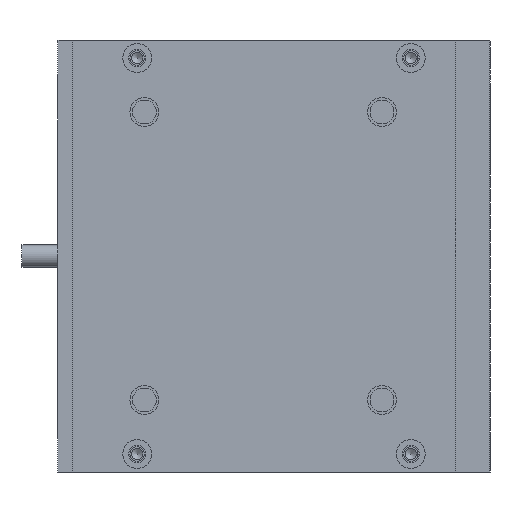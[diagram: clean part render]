
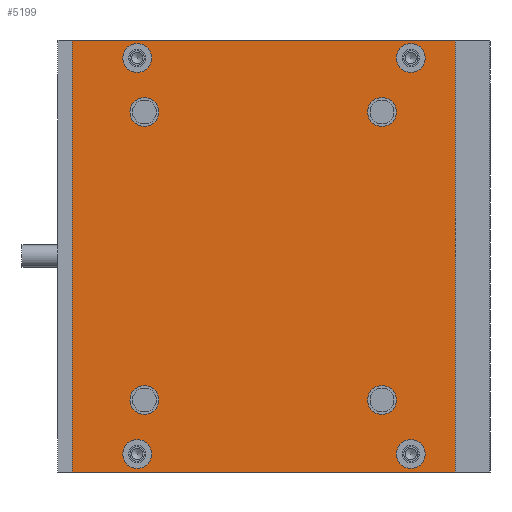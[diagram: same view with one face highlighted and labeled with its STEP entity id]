
A CAD part, left-side view. The second image highlights one B-rep face of the part: STEP entity #5199.
In plain terms, the highlighted planar face has unit normal (-1, 0, 0).
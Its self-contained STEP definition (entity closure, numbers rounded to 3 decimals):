
#177=FACE_BOUND('',#1073,.T.);
#178=FACE_BOUND('',#1074,.T.);
#179=FACE_BOUND('',#1075,.T.);
#180=FACE_BOUND('',#1076,.T.);
#181=FACE_BOUND('',#1077,.T.);
#182=FACE_BOUND('',#1078,.T.);
#183=FACE_BOUND('',#1079,.T.);
#184=FACE_BOUND('',#1080,.T.);
#431=CIRCLE('',#5708,2.);
#432=CIRCLE('',#5709,2.);
#437=CIRCLE('',#5716,2.);
#438=CIRCLE('',#5717,2.);
#443=CIRCLE('',#5724,2.);
#444=CIRCLE('',#5725,2.);
#449=CIRCLE('',#5732,2.);
#450=CIRCLE('',#5733,2.);
#453=CIRCLE('',#5737,2.);
#454=CIRCLE('',#5738,2.);
#461=CIRCLE('',#5747,2.);
#462=CIRCLE('',#5748,2.);
#469=CIRCLE('',#5757,2.);
#470=CIRCLE('',#5758,2.);
#477=CIRCLE('',#5767,2.);
#478=CIRCLE('',#5768,2.);
#744=FACE_OUTER_BOUND('',#1072,.T.);
#1072=EDGE_LOOP('',(#4692,#4693,#4694,#4695));
#1073=EDGE_LOOP('',(#4696,#4697));
#1074=EDGE_LOOP('',(#4698,#4699));
#1075=EDGE_LOOP('',(#4700,#4701));
#1076=EDGE_LOOP('',(#4702,#4703));
#1077=EDGE_LOOP('',(#4704,#4705));
#1078=EDGE_LOOP('',(#4706,#4707));
#1079=EDGE_LOOP('',(#4708,#4709));
#1080=EDGE_LOOP('',(#4710,#4711));
#1225=LINE('',#7706,#1677);
#1323=LINE('',#8157,#1775);
#1552=LINE('',#8975,#2004);
#1553=LINE('',#8977,#2005);
#1677=VECTOR('',#6047,1000.);
#1775=VECTOR('',#6487,1000.);
#2004=VECTOR('',#7330,1000.);
#2005=VECTOR('',#7333,1000.);
#2146=VERTEX_POINT('',#7646);
#2151=VERTEX_POINT('',#7662);
#2294=VERTEX_POINT('',#8120);
#2299=VERTEX_POINT('',#8136);
#2490=VERTEX_POINT('',#8841);
#2491=VERTEX_POINT('',#8843);
#2496=VERTEX_POINT('',#8857);
#2497=VERTEX_POINT('',#8859);
#2502=VERTEX_POINT('',#8873);
#2503=VERTEX_POINT('',#8875);
#2508=VERTEX_POINT('',#8889);
#2509=VERTEX_POINT('',#8891);
#2512=VERTEX_POINT('',#8899);
#2513=VERTEX_POINT('',#8901);
#2520=VERTEX_POINT('',#8919);
#2521=VERTEX_POINT('',#8921);
#2528=VERTEX_POINT('',#8939);
#2529=VERTEX_POINT('',#8941);
#2536=VERTEX_POINT('',#8959);
#2537=VERTEX_POINT('',#8961);
#2715=EDGE_CURVE('',#2151,#2146,#1225,.T.);
#2907=EDGE_CURVE('',#2299,#2294,#1323,.T.);
#3216=EDGE_CURVE('',#2490,#2491,#431,.T.);
#3217=EDGE_CURVE('',#2491,#2490,#432,.T.);
#3224=EDGE_CURVE('',#2496,#2497,#437,.T.);
#3225=EDGE_CURVE('',#2497,#2496,#438,.T.);
#3232=EDGE_CURVE('',#2502,#2503,#443,.T.);
#3233=EDGE_CURVE('',#2503,#2502,#444,.T.);
#3240=EDGE_CURVE('',#2508,#2509,#449,.T.);
#3241=EDGE_CURVE('',#2509,#2508,#450,.T.);
#3245=EDGE_CURVE('',#2512,#2513,#453,.T.);
#3246=EDGE_CURVE('',#2513,#2512,#454,.T.);
#3255=EDGE_CURVE('',#2520,#2521,#461,.T.);
#3256=EDGE_CURVE('',#2521,#2520,#462,.T.);
#3265=EDGE_CURVE('',#2528,#2529,#469,.T.);
#3266=EDGE_CURVE('',#2529,#2528,#470,.T.);
#3275=EDGE_CURVE('',#2536,#2537,#477,.T.);
#3276=EDGE_CURVE('',#2537,#2536,#478,.T.);
#3282=EDGE_CURVE('',#2146,#2299,#1552,.T.);
#3283=EDGE_CURVE('',#2294,#2151,#1553,.T.);
#4692=ORIENTED_EDGE('',*,*,#3282,.T.);
#4693=ORIENTED_EDGE('',*,*,#2907,.T.);
#4694=ORIENTED_EDGE('',*,*,#3283,.T.);
#4695=ORIENTED_EDGE('',*,*,#2715,.T.);
#4696=ORIENTED_EDGE('',*,*,#3217,.F.);
#4697=ORIENTED_EDGE('',*,*,#3216,.F.);
#4698=ORIENTED_EDGE('',*,*,#3225,.F.);
#4699=ORIENTED_EDGE('',*,*,#3224,.F.);
#4700=ORIENTED_EDGE('',*,*,#3233,.F.);
#4701=ORIENTED_EDGE('',*,*,#3232,.F.);
#4702=ORIENTED_EDGE('',*,*,#3241,.F.);
#4703=ORIENTED_EDGE('',*,*,#3240,.F.);
#4704=ORIENTED_EDGE('',*,*,#3246,.F.);
#4705=ORIENTED_EDGE('',*,*,#3245,.F.);
#4706=ORIENTED_EDGE('',*,*,#3256,.F.);
#4707=ORIENTED_EDGE('',*,*,#3255,.F.);
#4708=ORIENTED_EDGE('',*,*,#3266,.F.);
#4709=ORIENTED_EDGE('',*,*,#3265,.F.);
#4710=ORIENTED_EDGE('',*,*,#3276,.F.);
#4711=ORIENTED_EDGE('',*,*,#3275,.F.);
#4928=PLANE('',#5776);
#5199=ADVANCED_FACE('',(#744,#177,#178,#179,#180,#181,#182,#183,#184),#4928,
 .T.);
#5708=AXIS2_PLACEMENT_3D('',#8844,#7182,#7183);
#5709=AXIS2_PLACEMENT_3D('',#8845,#7184,#7185);
#5716=AXIS2_PLACEMENT_3D('',#8860,#7200,#7201);
#5717=AXIS2_PLACEMENT_3D('',#8861,#7202,#7203);
#5724=AXIS2_PLACEMENT_3D('',#8876,#7218,#7219);
#5725=AXIS2_PLACEMENT_3D('',#8877,#7220,#7221);
#5732=AXIS2_PLACEMENT_3D('',#8892,#7236,#7237);
#5733=AXIS2_PLACEMENT_3D('',#8893,#7238,#7239);
#5737=AXIS2_PLACEMENT_3D('',#8902,#7247,#7248);
#5738=AXIS2_PLACEMENT_3D('',#8903,#7249,#7250);
#5747=AXIS2_PLACEMENT_3D('',#8922,#7269,#7270);
#5748=AXIS2_PLACEMENT_3D('',#8923,#7271,#7272);
#5757=AXIS2_PLACEMENT_3D('',#8942,#7291,#7292);
#5758=AXIS2_PLACEMENT_3D('',#8943,#7293,#7294);
#5767=AXIS2_PLACEMENT_3D('',#8962,#7313,#7314);
#5768=AXIS2_PLACEMENT_3D('',#8963,#7315,#7316);
#5776=AXIS2_PLACEMENT_3D('',#8978,#7334,#7335);
#6047=DIRECTION('',(0.,0.,1.));
#6487=DIRECTION('',(0.,0.,-1.));
#7182=DIRECTION('center_axis',(-1.,0.,0.));
#7183=DIRECTION('ref_axis',(0.,1.,0.));
#7184=DIRECTION('center_axis',(-1.,0.,0.));
#7185=DIRECTION('ref_axis',(0.,1.,0.));
#7200=DIRECTION('center_axis',(-1.,0.,0.));
#7201=DIRECTION('ref_axis',(0.,1.,0.));
#7202=DIRECTION('center_axis',(-1.,0.,0.));
#7203=DIRECTION('ref_axis',(0.,1.,0.));
#7218=DIRECTION('center_axis',(-1.,0.,0.));
#7219=DIRECTION('ref_axis',(0.,1.,0.));
#7220=DIRECTION('center_axis',(-1.,0.,0.));
#7221=DIRECTION('ref_axis',(0.,1.,0.));
#7236=DIRECTION('center_axis',(-1.,0.,0.));
#7237=DIRECTION('ref_axis',(0.,1.,0.));
#7238=DIRECTION('center_axis',(-1.,0.,0.));
#7239=DIRECTION('ref_axis',(0.,1.,0.));
#7247=DIRECTION('center_axis',(-1.,0.,0.));
#7248=DIRECTION('ref_axis',(0.,1.,0.));
#7249=DIRECTION('center_axis',(-1.,0.,0.));
#7250=DIRECTION('ref_axis',(0.,1.,0.));
#7269=DIRECTION('center_axis',(-1.,0.,0.));
#7270=DIRECTION('ref_axis',(0.,1.,0.));
#7271=DIRECTION('center_axis',(-1.,0.,0.));
#7272=DIRECTION('ref_axis',(0.,1.,0.));
#7291=DIRECTION('center_axis',(-1.,0.,0.));
#7292=DIRECTION('ref_axis',(0.,1.,0.));
#7293=DIRECTION('center_axis',(-1.,0.,0.));
#7294=DIRECTION('ref_axis',(0.,1.,0.));
#7313=DIRECTION('center_axis',(-1.,0.,0.));
#7314=DIRECTION('ref_axis',(0.,1.,0.));
#7315=DIRECTION('center_axis',(-1.,0.,0.));
#7316=DIRECTION('ref_axis',(0.,1.,0.));
#7330=DIRECTION('',(0.,1.,0.));
#7333=DIRECTION('',(0.,-1.,0.));
#7334=DIRECTION('center_axis',(-1.,0.,0.));
#7335=DIRECTION('ref_axis',(0.,1.,0.));
#7646=CARTESIAN_POINT('',(-85.,4.8,60.));
#7662=CARTESIAN_POINT('',(-85.,4.8,0.));
#7706=CARTESIAN_POINT('',(-85.,4.8,60.));
#8120=CARTESIAN_POINT('',(-85.,58.,0.));
#8136=CARTESIAN_POINT('',(-85.,58.,60.));
#8157=CARTESIAN_POINT('',(-85.,58.,60.));
#8841=CARTESIAN_POINT('',(-85.,9.,57.5));
#8843=CARTESIAN_POINT('',(-85.,13.,57.5));
#8844=CARTESIAN_POINT('Origin',(-85.,11.,57.5));
#8845=CARTESIAN_POINT('Origin',(-85.,11.,57.5));
#8857=CARTESIAN_POINT('',(-85.,47.,57.5));
#8859=CARTESIAN_POINT('',(-85.,51.,57.5));
#8860=CARTESIAN_POINT('Origin',(-85.,49.,57.5));
#8861=CARTESIAN_POINT('Origin',(-85.,49.,57.5));
#8873=CARTESIAN_POINT('',(-85.,47.,2.5));
#8875=CARTESIAN_POINT('',(-85.,51.,2.5));
#8876=CARTESIAN_POINT('Origin',(-85.,49.,2.5));
#8877=CARTESIAN_POINT('Origin',(-85.,49.,2.5));
#8889=CARTESIAN_POINT('',(-85.,9.,2.5));
#8891=CARTESIAN_POINT('',(-85.,13.,2.5));
#8892=CARTESIAN_POINT('Origin',(-85.,11.,2.5));
#8893=CARTESIAN_POINT('Origin',(-85.,11.,2.5));
#8899=CARTESIAN_POINT('',(-85.,13.,50.));
#8901=CARTESIAN_POINT('',(-85.,17.,50.));
#8902=CARTESIAN_POINT('Origin',(-85.,15.,50.));
#8903=CARTESIAN_POINT('Origin',(-85.,15.,50.));
#8919=CARTESIAN_POINT('',(-85.,13.,10.));
#8921=CARTESIAN_POINT('',(-85.,17.,10.));
#8922=CARTESIAN_POINT('Origin',(-85.,15.,10.));
#8923=CARTESIAN_POINT('Origin',(-85.,15.,10.));
#8939=CARTESIAN_POINT('',(-85.,46.,10.));
#8941=CARTESIAN_POINT('',(-85.,50.,10.));
#8942=CARTESIAN_POINT('Origin',(-85.,48.,10.));
#8943=CARTESIAN_POINT('Origin',(-85.,48.,10.));
#8959=CARTESIAN_POINT('',(-85.,46.,50.));
#8961=CARTESIAN_POINT('',(-85.,50.,50.));
#8962=CARTESIAN_POINT('Origin',(-85.,48.,50.));
#8963=CARTESIAN_POINT('Origin',(-85.,48.,50.));
#8975=CARTESIAN_POINT('',(-85.,4.8,60.));
#8977=CARTESIAN_POINT('',(-85.,4.8,0.));
#8978=CARTESIAN_POINT('Origin',(-85.,58.,60.));
